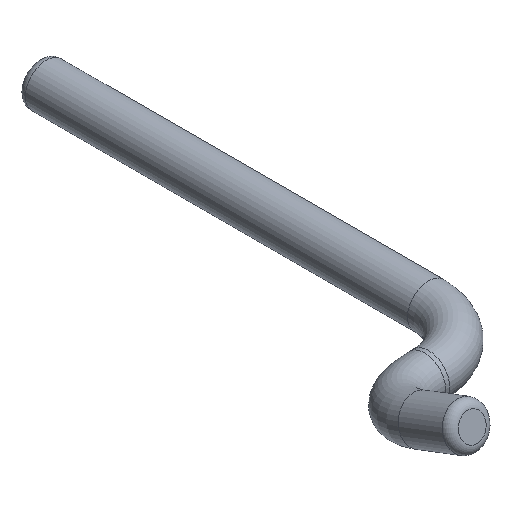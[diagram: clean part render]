
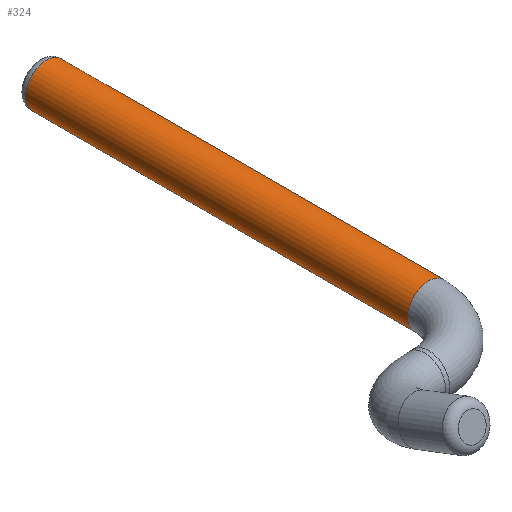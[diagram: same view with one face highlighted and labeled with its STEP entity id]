
A CAD part, isometric view. The second image highlights one B-rep face of the part: STEP entity #324.
In plain terms, the highlighted cylindrical face has radius 1.05 mm (diameter 2.1 mm), a full revolution.
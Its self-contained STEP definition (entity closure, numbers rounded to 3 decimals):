
#232 = TOROIDAL_SURFACE('',#233,3.,1.05);
#233 = AXIS2_PLACEMENT_3D('',#234,#235,#236);
#234 = CARTESIAN_POINT('',(-21.,21.,-6.6));
#235 = DIRECTION('',(0.,-0.,-1.));
#236 = DIRECTION('',(1.,0.,0.));
#275 = VERTEX_POINT('',#276);
#276 = CARTESIAN_POINT('',(-18.,21.,-7.65));
#299 = EDGE_CURVE('',#275,#275,#300,.T.);
#300 = SURFACE_CURVE('',#301,(#306,#312),.PCURVE_S1.);
#301 = CIRCLE('',#302,1.05);
#302 = AXIS2_PLACEMENT_3D('',#303,#304,#305);
#303 = CARTESIAN_POINT('',(-18.,21.,-6.6));
#304 = DIRECTION('',(0.,-1.,0.));
#305 = DIRECTION('',(0.,0.,-1.));
#306 = PCURVE('',#232,#307);
#307 = DEFINITIONAL_REPRESENTATION('',(#308),#311);
#308 = B_SPLINE_CURVE_WITH_KNOTS('',1,(#309,#310),.UNSPECIFIED.,.F.,.F.,
  (2,2),(0.,6.283),.PIECEWISE_BEZIER_KNOTS.);
#309 = CARTESIAN_POINT('',(0.,7.854));
#310 = CARTESIAN_POINT('',(0.,1.571));
#311 = ( GEOMETRIC_REPRESENTATION_CONTEXT(2) 
PARAMETRIC_REPRESENTATION_CONTEXT() REPRESENTATION_CONTEXT('2D SPACE',''
  ) );
#312 = PCURVE('',#313,#318);
#313 = CYLINDRICAL_SURFACE('',#314,1.05);
#314 = AXIS2_PLACEMENT_3D('',#315,#316,#317);
#315 = CARTESIAN_POINT('',(-18.,40.,-6.6));
#316 = DIRECTION('',(0.,-1.,0.));
#317 = DIRECTION('',(0.,0.,-1.));
#318 = DEFINITIONAL_REPRESENTATION('',(#319),#323);
#319 = LINE('',#320,#321);
#320 = CARTESIAN_POINT('',(0.,19.));
#321 = VECTOR('',#322,1.);
#322 = DIRECTION('',(1.,0.));
#323 = ( GEOMETRIC_REPRESENTATION_CONTEXT(2) 
PARAMETRIC_REPRESENTATION_CONTEXT() REPRESENTATION_CONTEXT('2D SPACE',''
  ) );
#324 = ADVANCED_FACE('',(#325),#313,.T.);
#325 = FACE_BOUND('',#326,.T.);
#326 = EDGE_LOOP('',(#327,#349,#350,#351));
#327 = ORIENTED_EDGE('',*,*,#328,.T.);
#328 = EDGE_CURVE('',#329,#275,#331,.T.);
#329 = VERTEX_POINT('',#330);
#330 = CARTESIAN_POINT('',(-18.,40.,-7.65));
#331 = SEAM_CURVE('',#332,(#336,#343),.PCURVE_S1.);
#332 = LINE('',#333,#334);
#333 = CARTESIAN_POINT('',(-18.,40.,-7.65));
#334 = VECTOR('',#335,1.);
#335 = DIRECTION('',(0.,-1.,0.));
#336 = PCURVE('',#313,#337);
#337 = DEFINITIONAL_REPRESENTATION('',(#338),#342);
#338 = LINE('',#339,#340);
#339 = CARTESIAN_POINT('',(6.283,0.));
#340 = VECTOR('',#341,1.);
#341 = DIRECTION('',(0.,1.));
#342 = ( GEOMETRIC_REPRESENTATION_CONTEXT(2) 
PARAMETRIC_REPRESENTATION_CONTEXT() REPRESENTATION_CONTEXT('2D SPACE',''
  ) );
#343 = PCURVE('',#313,#344);
#344 = DEFINITIONAL_REPRESENTATION('',(#345),#348);
#345 = B_SPLINE_CURVE_WITH_KNOTS('',1,(#346,#347),.UNSPECIFIED.,.F.,.F.,
  (2,2),(0.,19.),.PIECEWISE_BEZIER_KNOTS.);
#346 = CARTESIAN_POINT('',(0.,0.));
#347 = CARTESIAN_POINT('',(0.,19.));
#348 = ( GEOMETRIC_REPRESENTATION_CONTEXT(2) 
PARAMETRIC_REPRESENTATION_CONTEXT() REPRESENTATION_CONTEXT('2D SPACE',''
  ) );
#349 = ORIENTED_EDGE('',*,*,#299,.F.);
#350 = ORIENTED_EDGE('',*,*,#328,.F.);
#351 = ORIENTED_EDGE('',*,*,#352,.T.);
#352 = EDGE_CURVE('',#329,#329,#353,.T.);
#353 = SURFACE_CURVE('',#354,(#359,#366),.PCURVE_S1.);
#354 = CIRCLE('',#355,1.05);
#355 = AXIS2_PLACEMENT_3D('',#356,#357,#358);
#356 = CARTESIAN_POINT('',(-18.,40.,-6.6));
#357 = DIRECTION('',(0.,-1.,0.));
#358 = DIRECTION('',(0.,0.,-1.));
#359 = PCURVE('',#313,#360);
#360 = DEFINITIONAL_REPRESENTATION('',(#361),#365);
#361 = LINE('',#362,#363);
#362 = CARTESIAN_POINT('',(0.,0.));
#363 = VECTOR('',#364,1.);
#364 = DIRECTION('',(1.,0.));
#365 = ( GEOMETRIC_REPRESENTATION_CONTEXT(2) 
PARAMETRIC_REPRESENTATION_CONTEXT() REPRESENTATION_CONTEXT('2D SPACE',''
  ) );
#366 = PCURVE('',#367,#372);
#367 = TOROIDAL_SURFACE('',#368,0.65,0.4);
#368 = AXIS2_PLACEMENT_3D('',#369,#370,#371);
#369 = CARTESIAN_POINT('',(-18.,40.,-6.6));
#370 = DIRECTION('',(-0.,1.,-0.));
#371 = DIRECTION('',(0.,0.,-1.));
#372 = DEFINITIONAL_REPRESENTATION('',(#373),#377);
#373 = LINE('',#374,#375);
#374 = CARTESIAN_POINT('',(-0.,0.));
#375 = VECTOR('',#376,1.);
#376 = DIRECTION('',(-1.,0.));
#377 = ( GEOMETRIC_REPRESENTATION_CONTEXT(2) 
PARAMETRIC_REPRESENTATION_CONTEXT() REPRESENTATION_CONTEXT('2D SPACE',''
  ) );
